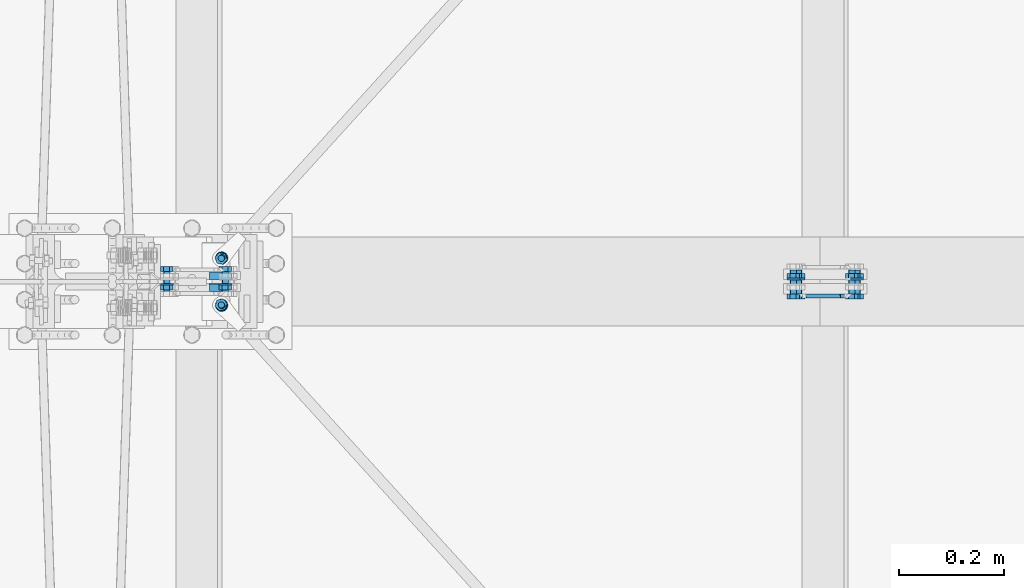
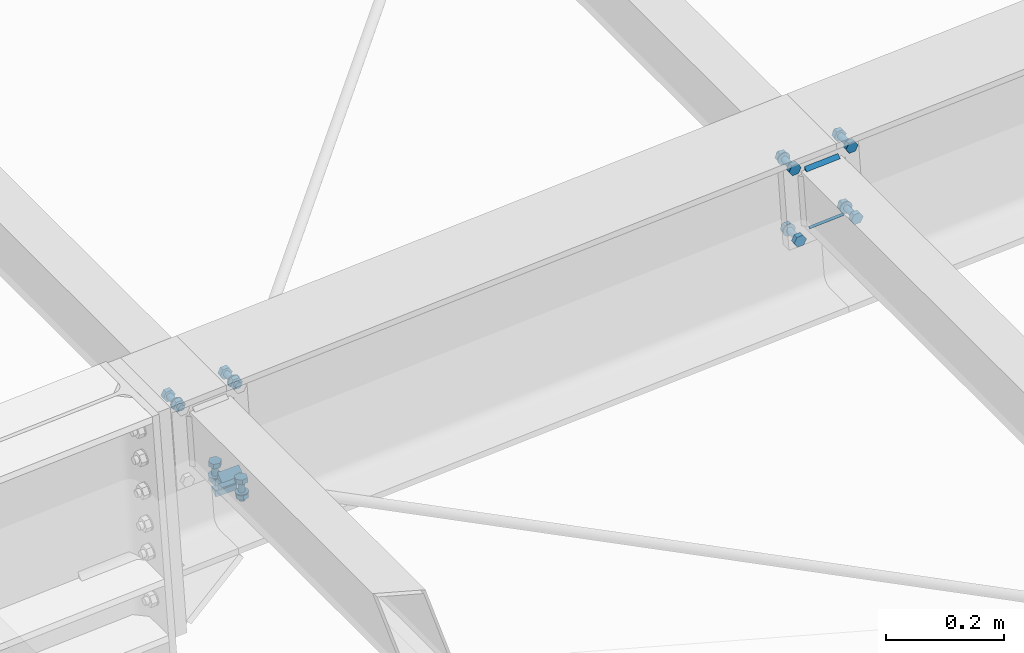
# One storey, part 38 of 72: 31 mechanical fasteners, 8 fasteners.
"""IFC4 building model written with IfcOpenShell, lengths in metres."""

from ifc_helpers import new_model, si_unit, frame, origin_with_axes, place, context, project, spatial, polyline, outline, extrude, type_object, element, save


model = new_model("IFC4")

# Units and contexts
model_context = context("Model", 3, precision=1e-05, world=origin_with_axes())
ifc_project = project(units=[si_unit("LENGTHUNIT", "METRE"), si_unit("AREAUNIT", "SQUARE_METRE"), si_unit("VOLUMEUNIT", "CUBIC_METRE"), si_unit("MASSUNIT", "GRAM", prefix="KILO"), si_unit("TIMEUNIT", "SECOND"), si_unit("PLANEANGLEUNIT", "RADIAN"), si_unit("SOLIDANGLEUNIT", "STERADIAN"), si_unit("THERMODYNAMICTEMPERATUREUNIT", "DEGREE_CELSIUS")], contexts=[model_context])

# Site, building, storey
placement_1 = place(None, origin_with_axes())
site = spatial("IfcSite", under=ifc_project, at=placement_1, Name="Italia", CompositionType="ELEMENT")
building = spatial("IfcBuilding", under=site, at=placement_1, Name="Pensilina", CompositionType="ELEMENT")
storey = spatial("IfcBuildingStorey", under=building, at=placement_1, Name="Storey 0", CompositionType="ELEMENT", Elevation=0.0)

# Mechanical fasteners
mechanical_fastener_type_1 = type_object("IfcMechanicalFastenerType", Name="Collegamento 0202_0203", PredefinedType="BOLT")
placement_2 = place(placement_1, origin_with_axes())
mechanical_fastener_1_placement = place(placement_2, origin_with_axes())
element("IfcMechanicalFastener", 1, at=mechanical_fastener_1_placement, inside=storey, type_object=mechanical_fastener_type_1, Name="Collegamento 0202_0203", NominalDiameter=0.0119999, context=model_context, shape_type="SweptSolid", body=[
    extrude(outline(polyline([(0.0, 0.0, 0.0), (-0.0119728, 0.000807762, 0.0), (-0.0172595, 0.0115805, 0.0), (-0.0105735, 0.0215452, 0.0), (0.00139928, 0.0207374, 0.0), (0.00668609, 0.0099647, 0.0), (0.0, 0.0, 0.0)])), frame((1.06652, 5.299, 3.7654), z_axis=(0.0, 1.0, 0.0), x_axis=(-1.0, 0.0, 0.0)), (0.0, 0.0, 1.0), 0.00960016),
])
mechanical_fastener_type_2 = type_object("IfcMechanicalFastenerType", Name="Collegamento 0202_0203", PredefinedType="BOLT")
mechanical_fastener_2_placement = place(placement_2, origin_with_axes())
element("IfcMechanicalFastener", 2, at=mechanical_fastener_2_placement, inside=storey, type_object=mechanical_fastener_type_2, Name="Collegamento 0202_0203", NominalDiameter=0.012, context=model_context, shape_type="SweptSolid", body=[
    extrude(outline(polyline([(0.0, 0.0, 0.0), (-0.000204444, -0.00155282, 0.0), (-0.000803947, -0.00300002, 0.0), (-0.00175738, -0.00424266, 0.0), (-0.00300002, -0.00519609, 0.0), (-0.0044471, -0.00579548, 0.0), (-0.00600004, -0.00600004, 0.0), (-0.00755298, -0.00579548, 0.0), (-0.00900006, -0.00519609, 0.0), (-0.0102427, -0.00424266, 0.0), (-0.0111961, -0.00300002, 0.0), (-0.0117956, -0.00155282, 0.0), (-0.0120001, 0.0, 0.0), (-0.0117956, 0.00155282, 0.0), (-0.0111961, 0.00300002, 0.0), (-0.0102427, 0.00424266, 0.0), (-0.00900006, 0.00519609, 0.0), (-0.00755298, 0.00579548, 0.0), (-0.00600004, 0.00600004, 0.0), (-0.0044471, 0.00579548, 0.0), (-0.00300002, 0.00519609, 0.0), (-0.00175738, 0.00424266, 0.0), (-0.000803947, 0.00300002, 0.0), (-0.000204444, 0.00155282, 0.0), (0.0, 0.0, 0.0)])), frame((1.06581, 5.258, 3.77618), z_axis=(0.0, 1.0, 0.0), x_axis=(-1.0, 0.0, 0.0)), (0.0, 0.0, 1.0), 0.0409999),
])
mechanical_fastener_type_3 = type_object("IfcMechanicalFastenerType", Name="Collegamento 0202_0203", PredefinedType="BOLT")
mechanical_fastener_3_placement = place(placement_2, origin_with_axes())
element("IfcMechanicalFastener", 3, at=mechanical_fastener_3_placement, inside=storey, type_object=mechanical_fastener_type_3, Name="Collegamento 0202_0203", NominalDiameter=0.0119999, context=model_context, shape_type="SweptSolid", body=[
    extrude(outline(polyline([(0.0, 0.0, 0.0), (-0.0119728, 0.000807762, 0.0), (-0.0172595, 0.0115805, 0.0), (-0.0105735, 0.0215452, 0.0), (0.00139928, 0.0207374, 0.0), (0.00668609, 0.0099647, 0.0), (0.0, 0.0, 0.0)])), frame((1.06652, 5.2644, 3.7654), z_axis=(0.0, 1.0, 0.0), x_axis=(-1.0, 0.0, 0.0)), (0.0, 0.0, 1.0), 0.00959969),
])
mechanical_fastener_type_4 = type_object("IfcMechanicalFastenerType", Name="Collegamento 0202_0203", PredefinedType="BOLT")
mechanical_fastener_4_placement = place(placement_2, origin_with_axes())
element("IfcMechanicalFastener", 4, at=mechanical_fastener_4_placement, inside=storey, type_object=mechanical_fastener_type_4, Name="Collegamento 0202_0203", NominalDiameter=0.024, context=model_context, shape_type="SweptSolid", body=[
    extrude(outline(polyline([(0.0, 0.0, 0.0), (-0.000408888, -0.00310588, 0.0), (-0.00160766, -0.00600004, 0.0), (-0.00351465, -0.00848532, 0.0), (-0.00599992, -0.0103922, 0.0), (-0.00889409, -0.0115912, 0.0), (-0.012, -0.0120001, 0.0), (-0.0151058, -0.0115912, 0.0), (-0.018, -0.0103922, 0.0), (-0.0204853, -0.00848532, 0.0), (-0.0223923, -0.00600004, 0.0), (-0.023591, -0.00310588, 0.0), (-0.0239999, 0.0, 0.0), (-0.023591, 0.00310588, 0.0), (-0.0223923, 0.00600004, 0.0), (-0.0204853, 0.00848532, 0.0), (-0.018, 0.0103922, 0.0), (-0.0151058, 0.0115912, 0.0), (-0.012, 0.0120001, 0.0), (-0.00889409, 0.0115912, 0.0), (-0.00599992, 0.0103922, 0.0), (-0.00351465, 0.00848532, 0.0), (-0.00160766, 0.00600004, 0.0), (-0.000408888, 0.00310588, 0.0), (0.0, 0.0, 0.0)])), frame((1.05981, 5.274, 3.77618), z_axis=(0.0, 1.0, 0.0), x_axis=(-1.0, 0.0, 0.0)), (0.0, 0.0, 1.0), 0.00200033),
])
mechanical_fastener_type_5 = type_object("IfcMechanicalFastenerType", Name="Collegamento 0202_0203", PredefinedType="BOLT")
mechanical_fastener_5_placement = place(placement_2, origin_with_axes())
element("IfcMechanicalFastener", 5, at=mechanical_fastener_5_placement, inside=storey, type_object=mechanical_fastener_type_5, Name="Collegamento 0202_0203", NominalDiameter=0.0119999, context=model_context, shape_type="SweptSolid", body=[
    extrude(outline(polyline([(0.0, 0.0, 0.0), (-0.0119728, 0.000807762, 0.0), (-0.0172596, 0.0115805, 0.0), (-0.0105736, 0.0215452, 0.0), (0.00139916, 0.0207374, 0.0), (0.00668597, 0.0099647, 0.0), (0.0, 0.0, 0.0)])), frame((0.954773, 5.299, 3.75786), z_axis=(0.0, 1.0, 0.0), x_axis=(-1.0, 0.0, 0.0)), (0.0, 0.0, 1.0), 0.00960016),
])
mechanical_fastener_type_6 = type_object("IfcMechanicalFastenerType", Name="Collegamento 0202_0203", PredefinedType="BOLT")
mechanical_fastener_6_placement = place(placement_2, origin_with_axes())
element("IfcMechanicalFastener", 6, at=mechanical_fastener_6_placement, inside=storey, type_object=mechanical_fastener_type_6, Name="Collegamento 0202_0203", NominalDiameter=0.012, context=model_context, shape_type="SweptSolid", body=[
    extrude(outline(polyline([(0.0, 0.0, 0.0), (-0.000204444, -0.00155282, 0.0), (-0.000803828, -0.00300002, 0.0), (-0.00175732, -0.00424266, 0.0), (-0.00299996, -0.00519609, 0.0), (-0.00444704, -0.00579548, 0.0), (-0.00599998, -0.00600004, 0.0), (-0.00755292, -0.00579548, 0.0), (-0.009, -0.00519609, 0.0), (-0.0102426, -0.00424266, 0.0), (-0.0111961, -0.00300002, 0.0), (-0.0117955, -0.00155282, 0.0), (-0.012, 0.0, 0.0), (-0.0117955, 0.00155282, 0.0), (-0.0111961, 0.00300002, 0.0), (-0.0102426, 0.00424266, 0.0), (-0.009, 0.00519609, 0.0), (-0.00755292, 0.00579548, 0.0), (-0.00599998, 0.00600004, 0.0), (-0.00444704, 0.00579548, 0.0), (-0.00299996, 0.00519609, 0.0), (-0.00175732, 0.00424266, 0.0), (-0.000803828, 0.00300002, 0.0), (-0.000204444, 0.00155282, 0.0), (0.0, 0.0, 0.0)])), frame((0.95406, 5.258, 3.76864), z_axis=(0.0, 1.0, 0.0), x_axis=(-1.0, 0.0, 0.0)), (0.0, 0.0, 1.0), 0.0409999),
])
mechanical_fastener_type_7 = type_object("IfcMechanicalFastenerType", Name="Collegamento 0202_0203", PredefinedType="BOLT")
mechanical_fastener_7_placement = place(placement_2, origin_with_axes())
element("IfcMechanicalFastener", 7, at=mechanical_fastener_7_placement, inside=storey, type_object=mechanical_fastener_type_7, Name="Collegamento 0202_0203", NominalDiameter=0.0119999, context=model_context, shape_type="SweptSolid", body=[
    extrude(outline(polyline([(0.0, 0.0, 0.0), (-0.0119728, 0.000807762, 0.0), (-0.0172596, 0.0115805, 0.0), (-0.0105736, 0.0215452, 0.0), (0.00139916, 0.0207374, 0.0), (0.00668597, 0.0099647, 0.0), (0.0, 0.0, 0.0)])), frame((0.954773, 5.2644, 3.75786), z_axis=(0.0, 1.0, 0.0), x_axis=(-1.0, 0.0, 0.0)), (0.0, 0.0, 1.0), 0.00959969),
])
mechanical_fastener_type_8 = type_object("IfcMechanicalFastenerType", Name="Collegamento 0202_0203", PredefinedType="BOLT")
mechanical_fastener_8_placement = place(placement_2, origin_with_axes())
element("IfcMechanicalFastener", 8, at=mechanical_fastener_8_placement, inside=storey, type_object=mechanical_fastener_type_8, Name="Collegamento 0202_0203", NominalDiameter=0.024, context=model_context, shape_type="SweptSolid", body=[
    extrude(outline(polyline([(0.0, 0.0, 0.0), (-0.000408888, -0.00310588, 0.0), (-0.00160772, -0.00600004, 0.0), (-0.00351477, -0.00848532, 0.0), (-0.00600004, -0.0103922, 0.0), (-0.00889421, -0.0115912, 0.0), (-0.012, -0.0120001, 0.0), (-0.0151058, -0.0115912, 0.0), (-0.018, -0.0103922, 0.0), (-0.0204853, -0.00848532, 0.0), (-0.0223923, -0.00600004, 0.0), (-0.0235912, -0.00310588, 0.0), (-0.024, 0.0, 0.0), (-0.0235912, 0.00310588, 0.0), (-0.0223923, 0.00600004, 0.0), (-0.0204853, 0.00848532, 0.0), (-0.018, 0.0103922, 0.0), (-0.0151058, 0.0115912, 0.0), (-0.012, 0.0120001, 0.0), (-0.00889421, 0.0115912, 0.0), (-0.00600004, 0.0103922, 0.0), (-0.00351477, 0.00848532, 0.0), (-0.00160772, 0.00600004, 0.0), (-0.000408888, 0.00310588, 0.0), (0.0, 0.0, 0.0)])), frame((0.94806, 5.274, 3.76864), z_axis=(0.0, 1.0, 0.0), x_axis=(-1.0, 0.0, 0.0)), (0.0, 0.0, 1.0), 0.00200033),
])
mechanical_fastener_type_9 = type_object("IfcMechanicalFastenerType", Name="Collegamento 0202_0601", PredefinedType="BOLT")
mechanical_fastener_9_placement = place(placement_2, origin_with_axes())
element("IfcMechanicalFastener", 9, at=mechanical_fastener_9_placement, inside=storey, type_object=mechanical_fastener_type_9, Name="Collegamento 0202_0601", NominalDiameter=0.0119999, context=model_context, shape_type="SweptSolid", body=[
    extrude(outline(polyline([(0.0, 0.0, 0.0), (4.76837e-06, -0.0119998, 0.0), (0.0103993, -0.0179958, 0.0), (0.0207896, -0.0119917, 0.0), (0.0207849, 8.10623e-06, 0.0), (0.0103898, 0.0060041, 0.0), (0.0, 0.0, 0.0)])), frame((1.07585, 5.23802, 3.59465), z_axis=(-0.030969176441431, 0.034172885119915, 0.998935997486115), x_axis=(-0.740986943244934, -0.67151939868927, 0.0)), (0.0, 0.0, 1.0), 0.00960013),
])
mechanical_fastener_type_10 = type_object("IfcMechanicalFastenerType", Name="Collegamento 0202_0601", PredefinedType="BOLT")
mechanical_fastener_10_placement = place(placement_2, origin_with_axes())
element("IfcMechanicalFastener", 10, at=mechanical_fastener_10_placement, inside=storey, type_object=mechanical_fastener_type_10, Name="Collegamento 0202_0601", NominalDiameter=0.012, context=model_context, shape_type="SweptSolid", body=[
    extrude(outline(polyline([(0.0, 0.0, 0.0), (-0.000204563, -0.0015533, 0.0), (-0.000804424, -0.00300026, 0.0), (-0.00175762, -0.00424314, 0.0), (-0.00300026, -0.00519633, 0.0), (-0.00444746, -0.00579572, 0.0), (-0.00600004, -0.00600004, 0.0), (-0.0075531, -0.00579572, 0.0), (-0.0090003, -0.00519633, 0.0), (-0.0102429, -0.0042429, 0.0), (-0.0111966, -0.0030005, 0.0), (-0.011796, -0.00155306, 0.0), (-0.0120006, -4.76837e-07, 0.0), (-0.011796, 0.00155258, 0.0), (-0.0111966, 0.00299978, 0.0), (-0.0102429, 0.00424266, 0.0), (-0.0090003, 0.00519586, 0.0), (-0.0075531, 0.00579524, 0.0), (-0.00600052, 0.00599957, 0.0), (-0.00444746, 0.00579524, 0.0), (-0.00300074, 0.00519586, 0.0), (-0.00175762, 0.00424242, 0.0), (-0.000803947, 0.00300002, 0.0), (-0.000204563, 0.00155258, 0.0), (0.0, 0.0, 0.0)])), frame((1.06086, 5.23014, 3.55641), z_axis=(-0.030975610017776, 0.034144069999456, 0.998936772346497), x_axis=(-0.740635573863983, -0.6719069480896, 0.0)), (0.0, 0.0, 1.0), 0.038),
])
mechanical_fastener_type_11 = type_object("IfcMechanicalFastenerType", Name="Collegamento 0202_0601", PredefinedType="BOLT")
mechanical_fastener_11_placement = place(placement_2, origin_with_axes())
element("IfcMechanicalFastener", 11, at=mechanical_fastener_11_placement, inside=storey, type_object=mechanical_fastener_type_11, Name="Collegamento 0202_0601", NominalDiameter=0.012, context=model_context, shape_type="SweptSolid", body=[
    extrude(outline(polyline([(0.0, 0.0, 0.0), (-4.29153e-06, -0.0120001, 0.0), (0.010386, -0.0180035, 0.0), (0.0207806, -0.012007, 0.0), (0.0207844, -6.91414e-06, 0.0), (0.0103941, 0.00599647, 0.0), (0.0, 0.0, 0.0)])), frame((1.07683, 5.23694, 3.56308), z_axis=(-0.030969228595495, 0.03412327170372, 0.998937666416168), x_axis=(-0.740500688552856, -0.672055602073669, 0.0)), (0.0, 0.0, 1.0), 0.00960011),
])
mechanical_fastener_type_12 = type_object("IfcMechanicalFastenerType", Name="Collegamento 0202_0601", PredefinedType="BOLT")
mechanical_fastener_12_placement = place(placement_2, origin_with_axes())
element("IfcMechanicalFastener", 12, at=mechanical_fastener_12_placement, inside=storey, type_object=mechanical_fastener_type_12, Name="Collegamento 0202_0601", NominalDiameter=0.024, context=model_context, shape_type="SweptSolid", body=[
    extrude(outline(polyline([(0.0, 0.0, 0.0), (-0.000408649, -0.00310564, 0.0), (-0.00160742, -0.00600004, 0.0), (-0.00351429, -0.00848508, 0.0), (-0.00600004, -0.0103922, 0.0), (-0.00889349, -0.0115907, 0.0), (-0.0119996, -0.0119996, 0.0), (-0.0151057, -0.011591, 0.0), (-0.0179996, -0.0103922, 0.0), (-0.0204849, -0.00848532, 0.0), (-0.0223923, -0.0059998, 0.0), (-0.0235906, -0.0031054, 0.0), (-0.0239997, 2.38419e-07, 0.0), (-0.0235906, 0.00310612, 0.0), (-0.0223918, 0.00600028, 0.0), (-0.0204849, 0.00848532, 0.0), (-0.0179996, 0.0103927, 0.0), (-0.0151057, 0.0115912, 0.0), (-0.0119996, 0.0120001, 0.0), (-0.00889397, 0.0115914, 0.0), (-0.00599957, 0.0103927, 0.0), (-0.00351429, 0.00848579, 0.0), (-0.00160742, 0.00600028, 0.0), (-0.000408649, 0.00310588, 0.0), (0.0, 0.0, 0.0)])), frame((1.05596, 5.22662, 3.5724), z_axis=(-0.030993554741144, 0.033854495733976, 0.998946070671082), x_axis=(-0.737585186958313, -0.675254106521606, 0.0)), (0.0, 0.0, 1.0), 0.00200006),
])

# Fasteners
fastener_type_1 = type_object("IfcFastenerType", Name="Collegamento 0202_0601", PredefinedType="WELD")
fastener_1_placement = place(placement_2, origin_with_axes())
element("IfcFastener", 13, at=fastener_1_placement, inside=storey, type_object=fastener_type_1, Name="Collegamento 0202_0601", context=model_context, shape_type="SweptSolid", body=[
    extrude(outline(polyline([(0.0, 0.0, 0.0), (-0.0136952, 0.0142243, 0.0), (0.000469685, 0.0137403, 0.0), (0.0, 0.0, 0.0)])), frame((1.0422, 5.27507, 3.55861), z_axis=(0.99951958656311, 0.0, 0.030994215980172), x_axis=(0.0, 1.0, 0.0)), (0.0, 0.0, 1.0), 0.0421003),
])
fastener_type_2 = type_object("IfcFastenerType", Name="Collegamento 0202_0601", PredefinedType="WELD")
fastener_2_placement = place(placement_2, origin_with_axes())
element("IfcFastener", 14, at=fastener_2_placement, inside=storey, type_object=fastener_type_2, Name="Collegamento 0202_0601", context=model_context, shape_type="SweptSolid", body=[
    extrude(outline(polyline([(0.0, 0.0, 0.0), (0.0146346, -0.0132561, 0.0), (0.000469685, -0.0137401, 0.0), (0.0, 0.0, 0.0)])), frame((1.08312, 5.27635, 3.59727), z_axis=(-0.999519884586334, 0.0, -0.030983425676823), x_axis=(0.0, -1.0, 0.0)), (0.0, 0.0, 1.0), 0.0420995),
])

# Mechanical fasteners
mechanical_fastener_type_13 = type_object("IfcMechanicalFastenerType", Name="Collegamento 0202_0603", PredefinedType="BOLT")
mechanical_fastener_13_placement = place(placement_2, origin_with_axes())
element("IfcMechanicalFastener", 15, at=mechanical_fastener_13_placement, inside=storey, type_object=mechanical_fastener_type_13, Name="Collegamento 0202_0603", NominalDiameter=0.0119999, context=model_context, shape_type="SweptSolid", body=[
    extrude(outline(polyline([(0.0, 0.0, 0.0), (-4.52995e-06, -0.0120001, 0.0), (0.0103855, -0.0180044, 0.0), (0.0207801, -0.0120082, 0.0), (0.0207849, -8.10623e-06, 0.0), (0.0103946, 0.00599623, 0.0), (0.0, 0.0, 0.0)])), frame((1.06045, 5.33595, 3.57463), z_axis=(-0.030969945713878, -0.034173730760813, 0.99893593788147), x_axis=(0.740986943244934, -0.671519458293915, 0.0)), (0.0, 0.0, 1.0), 0.00959989),
])
mechanical_fastener_type_14 = type_object("IfcMechanicalFastenerType", Name="Collegamento 0202_0603", PredefinedType="BOLT")
mechanical_fastener_14_placement = place(placement_2, origin_with_axes())
element("IfcMechanicalFastener", 16, at=mechanical_fastener_14_placement, inside=storey, type_object=mechanical_fastener_type_14, Name="Collegamento 0202_0603", NominalDiameter=0.012, context=model_context, shape_type="SweptSolid", body=[
    extrude(outline(polyline([(0.0, 0.0, 0.0), (-0.000204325, -0.00155306, 0.0), (-0.000803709, -0.00299978, 0.0), (-0.00175738, -0.00424242, 0.0), (-0.00300002, -0.00519609, 0.0), (-0.00444722, -0.005795, 0.0), (-0.00600004, -0.00599957, 0.0), (-0.00755286, -0.00579548, 0.0), (-0.00900006, -0.00519609, 0.0), (-0.0102425, -0.00424242, 0.0), (-0.0111961, -0.00299978, 0.0), (-0.0117955, -0.00155258, 0.0), (-0.0120001, 0.0, 0.0), (-0.0117955, 0.00155306, 0.0), (-0.0111961, 0.00300026, 0.0), (-0.0102427, 0.0042429, 0.0), (-0.00899982, 0.00519657, 0.0), (-0.00755262, 0.00579548, 0.0), (-0.00600004, 0.00600004, 0.0), (-0.00444698, 0.00579596, 0.0), (-0.00300002, 0.00519609, 0.0), (-0.00175738, 0.0042429, 0.0), (-0.000803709, 0.00300026, 0.0), (-0.000204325, 0.00155306, 0.0), (0.0, 0.0, 0.0)])), frame((1.06975, 5.32179, 3.53639), z_axis=(-0.03097559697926, -0.034156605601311, 0.998936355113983), x_axis=(0.740758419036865, -0.67177152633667, 0.0)), (0.0, 0.0, 1.0), 0.038),
])
mechanical_fastener_type_15 = type_object("IfcMechanicalFastenerType", Name="Collegamento 0202_0603", PredefinedType="BOLT")
mechanical_fastener_15_placement = place(placement_2, origin_with_axes())
element("IfcMechanicalFastener", 17, at=mechanical_fastener_15_placement, inside=storey, type_object=mechanical_fastener_type_15, Name="Collegamento 0202_0603", NominalDiameter=0.0119999, context=model_context, shape_type="SweptSolid", body=[
    extrude(outline(polyline([(0.0, 0.0, 0.0), (-2.38419e-06, -0.0120001, 0.0), (0.0103891, -0.0180025, 0.0), (0.0207825, -0.0120044, 0.0), (0.0207846, -3.8147e-06, 0.0), (0.0103934, 0.00599813, 0.0), (0.0, 0.0, 0.0)])), frame((1.06143, 5.33703, 3.54306), z_axis=(-0.030982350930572, -0.034173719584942, 0.998935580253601), x_axis=(0.740853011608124, -0.671667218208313, 0.0)), (0.0, 0.0, 1.0), 0.00959989),
])
mechanical_fastener_type_16 = type_object("IfcMechanicalFastenerType", Name="Collegamento 0202_0603", PredefinedType="BOLT")
mechanical_fastener_16_placement = place(placement_2, origin_with_axes())
element("IfcMechanicalFastener", 18, at=mechanical_fastener_16_placement, inside=storey, type_object=mechanical_fastener_type_16, Name="Collegamento 0202_0603", NominalDiameter=0.024, context=model_context, shape_type="SweptSolid", body=[
    extrude(outline(polyline([(0.0, 0.0, 0.0), (-0.000408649, -0.00310612, 0.0), (-0.00160766, -0.00600004, 0.0), (-0.00351453, -0.00848532, 0.0), (-0.00600004, -0.0103922, 0.0), (-0.00889397, -0.0115914, 0.0), (-0.0120001, -0.0120001, 0.0), (-0.0151057, -0.0115914, 0.0), (-0.0179999, -0.0103927, 0.0), (-0.0204852, -0.00848532, 0.0), (-0.0223923, -0.00600004, 0.0), (-0.0235908, -0.00310612, 0.0), (-0.0239997, -4.76837e-07, 0.0), (-0.023591, 0.00310564, 0.0), (-0.022392, 0.00599957, 0.0), (-0.0204849, 0.00848484, 0.0), (-0.0179996, 0.0103917, 0.0), (-0.0151057, 0.011591, 0.0), (-0.0119996, 0.0119996, 0.0), (-0.00889397, 0.011591, 0.0), (-0.0059998, 0.0103922, 0.0), (-0.00351453, 0.00848484, 0.0), (-0.00160742, 0.00599957, 0.0), (-0.000408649, 0.00310564, 0.0), (0.0, 0.0, 0.0)])), frame((1.07369, 5.31721, 3.55238), z_axis=(-0.03099699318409, -0.034096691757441, 0.998937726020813), x_axis=(0.739940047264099, -0.672672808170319, 0.0)), (0.0, 0.0, 1.0), 0.00199983),
])

# Fasteners
fastener_type_3 = type_object("IfcFastenerType", Name="Collegamento 0202_0603", PredefinedType="WELD")
fastener_3_placement = place(placement_2, origin_with_axes())
element("IfcFastener", 19, at=fastener_3_placement, inside=storey, type_object=fastener_type_3, Name="Collegamento 0202_0603", context=model_context, shape_type="SweptSolid", body=[
    extrude(outline(polyline([(0.0, 0.0, 0.0), (-0.0136952, 0.0142243, 0.0), (0.000469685, 0.0137401, 0.0), (0.0, 0.0, 0.0)])), frame((1.08428, 5.28493, 3.53989), z_axis=(-0.999519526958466, 0.0, -0.030994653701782), x_axis=(0.0, -1.0, 0.0)), (0.0, 0.0, 1.0), 0.0420997),
])
fastener_type_4 = type_object("IfcFastenerType", Name="Collegamento 0202_0603", PredefinedType="WELD")
fastener_4_placement = place(placement_2, origin_with_axes())
element("IfcFastener", 20, at=fastener_4_placement, inside=storey, type_object=fastener_type_4, Name="Collegamento 0202_0603", context=model_context, shape_type="SweptSolid", body=[
    extrude(outline(polyline([(0.0, 0.0, 0.0), (0.0146346, -0.0132563, 0.0), (0.000469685, -0.0137403, 0.0), (0.0, 0.0, 0.0)])), frame((1.04104, 5.28365, 3.57594), z_axis=(0.999519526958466, 0.0, 0.030994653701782), x_axis=(0.0, 1.0, 0.0)), (0.0, 0.0, 1.0), 0.0420997),
])
fastener_type_5 = type_object("IfcFastenerType", Name="Collegamento 0302_0301", PredefinedType="WELD")
fastener_5_placement = place(placement_2, origin_with_axes())
element("IfcFastener", 21, at=fastener_5_placement, inside=storey, type_object=fastener_type_5, Name="Collegamento 0302_0301", context=model_context, shape_type="SweptSolid", body=[
    extrude(outline(polyline([(0.0, 0.0, 0.0), (0.00717354, -0.00695801, 0.0), (0.0, -0.00695801, 0.0), (0.0, 0.0, 0.0)])), frame((2.24674, 5.25605, 3.84781), z_axis=(-0.997731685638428, 0.0, -0.067316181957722), x_axis=(0.0, -1.0, 0.0)), (0.0, 0.0, 1.0), 0.0661001),
])
fastener_type_6 = type_object("IfcFastenerType", Name="Collegamento 0302_0301", PredefinedType="WELD")
fastener_6_placement = place(placement_2, origin_with_axes())
element("IfcFastener", 22, at=fastener_6_placement, inside=storey, type_object=fastener_type_6, Name="Collegamento 0302_0301", context=model_context, shape_type="SweptSolid", body=[
    extrude(outline(polyline([(0.0, 0.0, 0.0), (-0.00717354, 0.00695801, 0.0), (0.0, 0.00695801, 0.0), (0.0, 0.0, 0.0)])), frame((2.1898, 5.25605, 3.70985), z_axis=(0.997731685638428, 0.0, 0.067316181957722), x_axis=(0.0, 1.0, 0.0)), (0.0, 0.0, 1.0), 0.0661001),
])
fastener_type_7 = type_object("IfcFastenerType", Name="Collegamento 0302_0301", PredefinedType="WELD")
fastener_7_placement = place(placement_2, origin_with_axes())
element("IfcFastener", 23, at=fastener_7_placement, inside=storey, type_object=fastener_type_7, Name="Collegamento 0302_0301", context=model_context, shape_type="SweptSolid", body=[
    extrude(outline(polyline([(0.0, 0.0, 0.0), (0.00717354, -0.00695801, 0.0), (0.0, -0.00695801, 0.0), (0.0, 0.0, 0.0)])), frame((2.24674, 5.25605, 3.84781), z_axis=(-0.997731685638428, 0.0, -0.067316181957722), x_axis=(0.0, -1.0, 0.0)), (0.0, 0.0, 1.0), 0.0661001),
])
fastener_type_8 = type_object("IfcFastenerType", Name="Collegamento 0302_0301", PredefinedType="WELD")
fastener_8_placement = place(placement_2, origin_with_axes())
element("IfcFastener", 24, at=fastener_8_placement, inside=storey, type_object=fastener_type_8, Name="Collegamento 0302_0301", context=model_context, shape_type="SweptSolid", body=[
    extrude(outline(polyline([(0.0, 0.0, 0.0), (-0.00717354, 0.00695801, 0.0), (0.0, 0.00695801, 0.0), (0.0, 0.0, 0.0)])), frame((2.1898, 5.25605, 3.70985), z_axis=(0.997731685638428, 0.0, 0.067316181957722), x_axis=(0.0, 1.0, 0.0)), (0.0, 0.0, 1.0), 0.0661001),
])

# Mechanical fasteners
mechanical_fastener_type_17 = type_object("IfcMechanicalFastenerType", Name="Collegamento 0302_0301", PredefinedType="BOLT")
mechanical_fastener_17_placement = place(placement_2, origin_with_axes())
element("IfcMechanicalFastener", 25, at=mechanical_fastener_17_placement, inside=storey, type_object=mechanical_fastener_type_17, Name="Collegamento 0302_0301", NominalDiameter=0.0119999, context=model_context, shape_type="SweptSolid", body=[
    extrude(outline(polyline([(0.0, 0.0, 0.0), (-0.0119727, -0.000808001, 0.0), (-0.0186586, 0.00915694, 0.0), (-0.0133719, 0.0199296, 0.0), (-0.00139904, 0.0207374, 0.0), (0.00528693, 0.0107725, 0.0), (0.0, 0.0, 0.0)])), frame((2.1742, 5.256, 3.68927), z_axis=(0.0, -1.0, 0.0), x_axis=(1.0, 0.0, 0.0)), (0.0, 0.0, 1.0), 0.00960016),
])
mechanical_fastener_type_18 = type_object("IfcMechanicalFastenerType", Name="Collegamento 0302_0301", PredefinedType="BOLT")
mechanical_fastener_18_placement = place(placement_2, origin_with_axes())
element("IfcMechanicalFastener", 26, at=mechanical_fastener_18_placement, inside=storey, type_object=mechanical_fastener_type_18, Name="Collegamento 0302_0301", NominalDiameter=0.012, context=model_context, shape_type="SweptSolid", body=[
    extrude(outline(polyline([(0.0, 0.0, 0.0), (-0.000204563, -0.00155282, 0.0), (-0.000803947, -0.00300002, 0.0), (-0.00175738, -0.00424266, 0.0), (-0.00300002, -0.00519609, 0.0), (-0.00444722, -0.00579548, 0.0), (-0.00600004, -0.00600004, 0.0), (-0.00755286, -0.00579548, 0.0), (-0.00900006, -0.00519609, 0.0), (-0.0102427, -0.00424266, 0.0), (-0.0111961, -0.00300002, 0.0), (-0.0117955, -0.00155282, 0.0), (-0.0120001, 0.0, 0.0), (-0.0117955, 0.00155282, 0.0), (-0.0111961, 0.00300002, 0.0), (-0.0102427, 0.00424266, 0.0), (-0.00900006, 0.00519609, 0.0), (-0.00755286, 0.00579548, 0.0), (-0.00600004, 0.00600004, 0.0), (-0.00444722, 0.00579548, 0.0), (-0.00300002, 0.00519609, 0.0), (-0.00175738, 0.00424266, 0.0), (-0.000803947, 0.00300002, 0.0), (-0.000204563, 0.00155282, 0.0), (0.0, 0.0, 0.0)])), frame((2.17351, 5.302, 3.69923), z_axis=(0.0, -1.0, 0.0), x_axis=(1.0, 0.0, 0.0)), (0.0, 0.0, 1.0), 0.046),
])
mechanical_fastener_type_19 = type_object("IfcMechanicalFastenerType", Name="Collegamento 0302_0301", PredefinedType="BOLT")
mechanical_fastener_19_placement = place(placement_2, origin_with_axes())
element("IfcMechanicalFastener", 27, at=mechanical_fastener_19_placement, inside=storey, type_object=mechanical_fastener_type_19, Name="Collegamento 0302_0301", NominalDiameter=0.0119999, context=model_context, shape_type="SweptSolid", body=[
    extrude(outline(polyline([(0.0, 0.0, 0.0), (-0.0119727, -0.000808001, 0.0), (-0.0186586, 0.00915694, 0.0), (-0.0133719, 0.0199296, 0.0), (-0.00139904, 0.0207374, 0.0), (0.00528693, 0.0107725, 0.0), (0.0, 0.0, 0.0)])), frame((2.1742, 5.2956, 3.68927), z_axis=(0.0, -1.0, 0.0), x_axis=(1.0, 0.0, 0.0)), (0.0, 0.0, 1.0), 0.00959969),
])
mechanical_fastener_type_20 = type_object("IfcMechanicalFastenerType", Name="Collegamento 0302_0301", PredefinedType="BOLT")
mechanical_fastener_20_placement = place(placement_2, origin_with_axes())
element("IfcMechanicalFastener", 28, at=mechanical_fastener_20_placement, inside=storey, type_object=mechanical_fastener_type_20, Name="Collegamento 0302_0301", NominalDiameter=0.024, context=model_context, shape_type="SweptSolid", body=[
    extrude(outline(polyline([(0.0, 0.0, 0.0), (-0.000408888, -0.00310588, 0.0), (-0.00160789, -0.00600004, 0.0), (-0.00351477, -0.00848532, 0.0), (-0.00600004, -0.0103922, 0.0), (-0.00889421, -0.0115912, 0.0), (-0.0120001, -0.0120001, 0.0), (-0.015106, -0.0115912, 0.0), (-0.0180001, -0.0103922, 0.0), (-0.0204854, -0.00848532, 0.0), (-0.0223923, -0.00600004, 0.0), (-0.0235913, -0.00310588, 0.0), (-0.0240002, 0.0, 0.0), (-0.0235913, 0.00310588, 0.0), (-0.0223923, 0.00600004, 0.0), (-0.0204854, 0.00848532, 0.0), (-0.0180001, 0.0103922, 0.0), (-0.015106, 0.0115912, 0.0), (-0.0120001, 0.0120001, 0.0), (-0.00889421, 0.0115912, 0.0), (-0.00600004, 0.0103922, 0.0), (-0.00351477, 0.00848532, 0.0), (-0.00160789, 0.00600004, 0.0), (-0.000408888, 0.00310588, 0.0), (0.0, 0.0, 0.0)])), frame((2.17951, 5.286, 3.69923), z_axis=(0.0, -1.0, 0.0), x_axis=(1.0, 0.0, 0.0)), (0.0, 0.0, 1.0), 0.00200033),
])
mechanical_fastener_type_21 = type_object("IfcMechanicalFastenerType", Name="Collegamento 0302_0301", PredefinedType="BOLT")
mechanical_fastener_21_placement = place(placement_2, origin_with_axes())
element("IfcMechanicalFastener", 29, at=mechanical_fastener_21_placement, inside=storey, type_object=mechanical_fastener_type_21, Name="Collegamento 0302_0301", NominalDiameter=0.0119999, context=model_context, shape_type="SweptSolid", body=[
    extrude(outline(polyline([(0.0, 0.0, 0.0), (-0.0119729, -0.000807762, 0.0), (-0.0186589, 0.00915718, 0.0), (-0.0133719, 0.0199296, 0.0), (-0.00139928, 0.0207376, 0.0), (0.00528669, 0.0107727, 0.0), (0.0, 0.0, 0.0)])), frame((2.28595, 5.256, 3.69681), z_axis=(0.0, -1.0, 0.0), x_axis=(1.0, 0.0, 0.0)), (0.0, 0.0, 1.0), 0.00960016),
])
mechanical_fastener_type_22 = type_object("IfcMechanicalFastenerType", Name="Collegamento 0302_0301", PredefinedType="BOLT")
mechanical_fastener_22_placement = place(placement_2, origin_with_axes())
element("IfcMechanicalFastener", 30, at=mechanical_fastener_22_placement, inside=storey, type_object=mechanical_fastener_type_22, Name="Collegamento 0302_0301", NominalDiameter=0.012, context=model_context, shape_type="SweptSolid", body=[
    extrude(outline(polyline([(0.0, 0.0, 0.0), (-0.000204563, -0.00155282, 0.0), (-0.000803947, -0.00300002, 0.0), (-0.00175738, -0.00424266, 0.0), (-0.00300002, -0.00519609, 0.0), (-0.00444722, -0.00579548, 0.0), (-0.00600004, -0.00600004, 0.0), (-0.00755286, -0.00579548, 0.0), (-0.00900006, -0.00519609, 0.0), (-0.0102427, -0.00424266, 0.0), (-0.0111961, -0.00300002, 0.0), (-0.0117955, -0.00155282, 0.0), (-0.0120001, 0.0, 0.0), (-0.0117955, 0.00155282, 0.0), (-0.0111961, 0.00300002, 0.0), (-0.0102427, 0.00424266, 0.0), (-0.00900006, 0.00519609, 0.0), (-0.00755286, 0.00579548, 0.0), (-0.00600004, 0.00600004, 0.0), (-0.00444722, 0.00579548, 0.0), (-0.00300002, 0.00519609, 0.0), (-0.00175738, 0.00424266, 0.0), (-0.000803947, 0.00300002, 0.0), (-0.000204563, 0.00155282, 0.0), (0.0, 0.0, 0.0)])), frame((2.28526, 5.302, 3.70677), z_axis=(0.0, -1.0, 0.0), x_axis=(1.0, 0.0, 0.0)), (0.0, 0.0, 1.0), 0.046),
])
mechanical_fastener_type_23 = type_object("IfcMechanicalFastenerType", Name="Collegamento 0302_0301", PredefinedType="BOLT")
mechanical_fastener_23_placement = place(placement_2, origin_with_axes())
element("IfcMechanicalFastener", 31, at=mechanical_fastener_23_placement, inside=storey, type_object=mechanical_fastener_type_23, Name="Collegamento 0302_0301", NominalDiameter=0.0119999, context=model_context, shape_type="SweptSolid", body=[
    extrude(outline(polyline([(0.0, 0.0, 0.0), (-0.0119729, -0.000807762, 0.0), (-0.0186589, 0.00915718, 0.0), (-0.0133719, 0.0199296, 0.0), (-0.00139928, 0.0207376, 0.0), (0.00528669, 0.0107727, 0.0), (0.0, 0.0, 0.0)])), frame((2.28595, 5.2956, 3.69681), z_axis=(0.0, -1.0, 0.0), x_axis=(1.0, 0.0, 0.0)), (0.0, 0.0, 1.0), 0.00959969),
])
mechanical_fastener_type_24 = type_object("IfcMechanicalFastenerType", Name="Collegamento 0302_0301", PredefinedType="BOLT")
mechanical_fastener_24_placement = place(placement_2, origin_with_axes())
element("IfcMechanicalFastener", 32, at=mechanical_fastener_24_placement, inside=storey, type_object=mechanical_fastener_type_24, Name="Collegamento 0302_0301", NominalDiameter=0.024, context=model_context, shape_type="SweptSolid", body=[
    extrude(outline(polyline([(0.0, 0.0, 0.0), (-0.000408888, -0.00310588, 0.0), (-0.00160789, -0.00600004, 0.0), (-0.00351477, -0.00848532, 0.0), (-0.00600004, -0.0103922, 0.0), (-0.00889421, -0.0115912, 0.0), (-0.0120001, -0.0120001, 0.0), (-0.015106, -0.0115912, 0.0), (-0.0180001, -0.0103922, 0.0), (-0.0204854, -0.00848532, 0.0), (-0.0223923, -0.00600004, 0.0), (-0.0235913, -0.00310588, 0.0), (-0.0240002, 0.0, 0.0), (-0.0235913, 0.00310588, 0.0), (-0.0223923, 0.00600004, 0.0), (-0.0204854, 0.00848532, 0.0), (-0.0180001, 0.0103922, 0.0), (-0.015106, 0.0115912, 0.0), (-0.0120001, 0.0120001, 0.0), (-0.00889421, 0.0115912, 0.0), (-0.00600004, 0.0103922, 0.0), (-0.00351477, 0.00848532, 0.0), (-0.00160789, 0.00600004, 0.0), (-0.000408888, 0.00310588, 0.0), (0.0, 0.0, 0.0)])), frame((2.29126, 5.286, 3.70677), z_axis=(0.0, -1.0, 0.0), x_axis=(1.0, 0.0, 0.0)), (0.0, 0.0, 1.0), 0.00200033),
])
mechanical_fastener_type_25 = type_object("IfcMechanicalFastenerType", Name="Collegamento 0302_0301", PredefinedType="BOLT")
mechanical_fastener_25_placement = place(placement_2, origin_with_axes())
element("IfcMechanicalFastener", 33, at=mechanical_fastener_25_placement, inside=storey, type_object=mechanical_fastener_type_25, Name="Collegamento 0302_0301", NominalDiameter=0.0119999, context=model_context, shape_type="SweptSolid", body=[
    extrude(outline(polyline([(0.0, 0.0, 0.0), (-0.0119727, -0.000808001, 0.0), (-0.0186586, 0.00915694, 0.0), (-0.0133719, 0.0199296, 0.0), (-0.00139904, 0.0207374, 0.0), (0.00528693, 0.0107725, 0.0), (0.0, 0.0, 0.0)])), frame((2.16397, 5.256, 3.84092), z_axis=(0.0, -1.0, 0.0), x_axis=(1.0, 0.0, 0.0)), (0.0, 0.0, 1.0), 0.00960016),
])
mechanical_fastener_type_26 = type_object("IfcMechanicalFastenerType", Name="Collegamento 0302_0301", PredefinedType="BOLT")
mechanical_fastener_26_placement = place(placement_2, origin_with_axes())
element("IfcMechanicalFastener", 34, at=mechanical_fastener_26_placement, inside=storey, type_object=mechanical_fastener_type_26, Name="Collegamento 0302_0301", NominalDiameter=0.012, context=model_context, shape_type="SweptSolid", body=[
    extrude(outline(polyline([(0.0, 0.0, 0.0), (-0.000204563, -0.00155282, 0.0), (-0.000803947, -0.00300002, 0.0), (-0.00175738, -0.00424266, 0.0), (-0.00300002, -0.00519609, 0.0), (-0.00444722, -0.00579548, 0.0), (-0.00600004, -0.00600004, 0.0), (-0.00755286, -0.00579548, 0.0), (-0.00900006, -0.00519609, 0.0), (-0.0102427, -0.00424266, 0.0), (-0.0111961, -0.00300002, 0.0), (-0.0117955, -0.00155282, 0.0), (-0.0120001, 0.0, 0.0), (-0.0117955, 0.00155282, 0.0), (-0.0111961, 0.00300002, 0.0), (-0.0102427, 0.00424266, 0.0), (-0.00900006, 0.00519609, 0.0), (-0.00755286, 0.00579548, 0.0), (-0.00600004, 0.00600004, 0.0), (-0.00444722, 0.00579548, 0.0), (-0.00300002, 0.00519609, 0.0), (-0.00175738, 0.00424266, 0.0), (-0.000803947, 0.00300002, 0.0), (-0.000204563, 0.00155282, 0.0), (0.0, 0.0, 0.0)])), frame((2.16328, 5.302, 3.85089), z_axis=(0.0, -1.0, 0.0), x_axis=(1.0, 0.0, 0.0)), (0.0, 0.0, 1.0), 0.046),
])
mechanical_fastener_type_27 = type_object("IfcMechanicalFastenerType", Name="Collegamento 0302_0301", PredefinedType="BOLT")
mechanical_fastener_27_placement = place(placement_2, origin_with_axes())
element("IfcMechanicalFastener", 35, at=mechanical_fastener_27_placement, inside=storey, type_object=mechanical_fastener_type_27, Name="Collegamento 0302_0301", NominalDiameter=0.0119999, context=model_context, shape_type="SweptSolid", body=[
    extrude(outline(polyline([(0.0, 0.0, 0.0), (-0.0119727, -0.000808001, 0.0), (-0.0186586, 0.00915694, 0.0), (-0.0133719, 0.0199296, 0.0), (-0.00139904, 0.0207374, 0.0), (0.00528693, 0.0107725, 0.0), (0.0, 0.0, 0.0)])), frame((2.16397, 5.2956, 3.84092), z_axis=(0.0, -1.0, 0.0), x_axis=(1.0, 0.0, 0.0)), (0.0, 0.0, 1.0), 0.00959969),
])
mechanical_fastener_type_28 = type_object("IfcMechanicalFastenerType", Name="Collegamento 0302_0301", PredefinedType="BOLT")
mechanical_fastener_28_placement = place(placement_2, origin_with_axes())
element("IfcMechanicalFastener", 36, at=mechanical_fastener_28_placement, inside=storey, type_object=mechanical_fastener_type_28, Name="Collegamento 0302_0301", NominalDiameter=0.024, context=model_context, shape_type="SweptSolid", body=[
    extrude(outline(polyline([(0.0, 0.0, 0.0), (-0.000408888, -0.00310588, 0.0), (-0.00160789, -0.00600004, 0.0), (-0.00351477, -0.00848532, 0.0), (-0.00600004, -0.0103922, 0.0), (-0.00889421, -0.0115912, 0.0), (-0.0120001, -0.0120001, 0.0), (-0.015106, -0.0115912, 0.0), (-0.0180001, -0.0103922, 0.0), (-0.0204854, -0.00848532, 0.0), (-0.0223923, -0.00600004, 0.0), (-0.0235913, -0.00310588, 0.0), (-0.0240002, 0.0, 0.0), (-0.0235913, 0.00310588, 0.0), (-0.0223923, 0.00600004, 0.0), (-0.0204854, 0.00848532, 0.0), (-0.0180001, 0.0103922, 0.0), (-0.015106, 0.0115912, 0.0), (-0.0120001, 0.0120001, 0.0), (-0.00889421, 0.0115912, 0.0), (-0.00600004, 0.0103922, 0.0), (-0.00351477, 0.00848532, 0.0), (-0.00160789, 0.00600004, 0.0), (-0.000408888, 0.00310588, 0.0), (0.0, 0.0, 0.0)])), frame((2.16928, 5.286, 3.85089), z_axis=(0.0, -1.0, 0.0), x_axis=(1.0, 0.0, 0.0)), (0.0, 0.0, 1.0), 0.00200033),
])
mechanical_fastener_type_29 = type_object("IfcMechanicalFastenerType", Name="Collegamento 0302_0301", PredefinedType="BOLT")
mechanical_fastener_29_placement = place(placement_2, origin_with_axes())
element("IfcMechanicalFastener", 37, at=mechanical_fastener_29_placement, inside=storey, type_object=mechanical_fastener_type_29, Name="Collegamento 0302_0301", NominalDiameter=0.0119999, context=model_context, shape_type="SweptSolid", body=[
    extrude(outline(polyline([(0.0, 0.0, 0.0), (-0.0119729, -0.000807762, 0.0), (-0.0186589, 0.00915718, 0.0), (-0.0133719, 0.0199296, 0.0), (-0.00139928, 0.0207376, 0.0), (0.00528669, 0.0107727, 0.0), (0.0, 0.0, 0.0)])), frame((2.27571, 5.256, 3.84846), z_axis=(0.0, -1.0, 0.0), x_axis=(1.0, 0.0, 0.0)), (0.0, 0.0, 1.0), 0.00960016),
])
mechanical_fastener_type_30 = type_object("IfcMechanicalFastenerType", Name="Collegamento 0302_0301", PredefinedType="BOLT")
mechanical_fastener_30_placement = place(placement_2, origin_with_axes())
element("IfcMechanicalFastener", 38, at=mechanical_fastener_30_placement, inside=storey, type_object=mechanical_fastener_type_30, Name="Collegamento 0302_0301", NominalDiameter=0.012, context=model_context, shape_type="SweptSolid", body=[
    extrude(outline(polyline([(0.0, 0.0, 0.0), (-0.000204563, -0.00155282, 0.0), (-0.000803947, -0.00300002, 0.0), (-0.00175738, -0.00424266, 0.0), (-0.00300002, -0.00519609, 0.0), (-0.00444722, -0.00579548, 0.0), (-0.00600004, -0.00600004, 0.0), (-0.00755286, -0.00579548, 0.0), (-0.00900006, -0.00519609, 0.0), (-0.0102427, -0.00424266, 0.0), (-0.0111961, -0.00300002, 0.0), (-0.0117955, -0.00155282, 0.0), (-0.0120001, 0.0, 0.0), (-0.0117955, 0.00155282, 0.0), (-0.0111961, 0.00300002, 0.0), (-0.0102427, 0.00424266, 0.0), (-0.00900006, 0.00519609, 0.0), (-0.00755286, 0.00579548, 0.0), (-0.00600004, 0.00600004, 0.0), (-0.00444722, 0.00579548, 0.0), (-0.00300002, 0.00519609, 0.0), (-0.00175738, 0.00424266, 0.0), (-0.000803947, 0.00300002, 0.0), (-0.000204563, 0.00155282, 0.0), (0.0, 0.0, 0.0)])), frame((2.27503, 5.302, 3.85843), z_axis=(0.0, -1.0, 0.0), x_axis=(1.0, 0.0, 0.0)), (0.0, 0.0, 1.0), 0.046),
])
mechanical_fastener_type_31 = type_object("IfcMechanicalFastenerType", Name="Collegamento 0302_0301", PredefinedType="BOLT")
mechanical_fastener_31_placement = place(placement_2, origin_with_axes())
element("IfcMechanicalFastener", 39, at=mechanical_fastener_31_placement, inside=storey, type_object=mechanical_fastener_type_31, Name="Collegamento 0302_0301", NominalDiameter=0.0119999, context=model_context, shape_type="SweptSolid", body=[
    extrude(outline(polyline([(0.0, 0.0, 0.0), (-0.0119729, -0.000807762, 0.0), (-0.0186589, 0.00915718, 0.0), (-0.0133719, 0.0199296, 0.0), (-0.00139928, 0.0207376, 0.0), (0.00528669, 0.0107727, 0.0), (0.0, 0.0, 0.0)])), frame((2.27571, 5.2956, 3.84846), z_axis=(0.0, -1.0, 0.0), x_axis=(1.0, 0.0, 0.0)), (0.0, 0.0, 1.0), 0.00959969),
])

save(model, "model.ifc")
